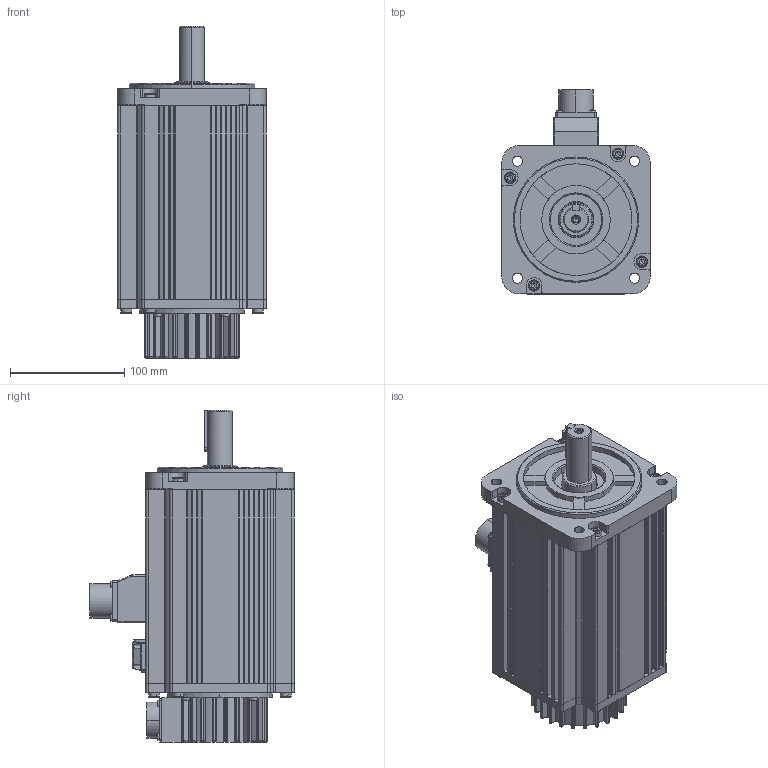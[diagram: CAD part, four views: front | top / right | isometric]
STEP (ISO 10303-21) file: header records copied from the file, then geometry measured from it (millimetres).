
FILE_DESCRIPTION (( 'STEP AP203' ), '1' );
FILE_NAME ('R130-2000+brake.STEP', '2019-08-19T02:04:04', ( '1' ), ( 'MideaGroup IT' ), 'SwSTEP 2.0', 'SolidWorks 2012', '' );
FILE_SCHEMA (( 'CONFIG_CONTROL_DESIGN' ));
Length unit declared in the file: millimetre
Products named in the file (20): R130-2000+brake; 雄薯盄揤裔郪璃; M2.5X5_GB_CROSS_SCREWS_TYPE3 M2.5X8-8-N; 雄薯盄; 雄薯盄躇猾菜; 雄薯盄揤裔; R130瑩; M3X10_GB_CROSS_SCREWS_TYPE1 M3X10-10  H type-N; M3X28_GB_FASTENER_SCREWS_HSHCS M3X25-C; M6X16-16-N_GB_HEXAGON_TYPE21 M6X16-16-N; ヶ傷裔-001; 萇埭盄瑤脣; 晤鎢ん瑤脣; 綴傷裔-002; 130-綴裔; 130-80B-瑤脣; 蛌赽郪璃-001; deep groove ball bearings gb_Rolling bearings 6206 GB 276-94; 130-85粣-001; 儂褲-001
Assembly tree (39 placements, depth 3):
  R130-2000+brake
    儂褲-001
    蛌赽郪璃-001
      130-85粣-001
      deep groove ball bearings gb_Rolling bearings 6206 GB 276-94
    130-80B-瑤脣
    130-綴裔
    綴傷裔-002
    晤鎢ん瑤脣
    萇埭盄瑤脣
    ヶ傷裔-001
    M6X16-16-N_GB_HEXAGON_TYPE21 M6X16-16-N  x8
    M3X28_GB_FASTENER_SCREWS_HSHCS M3X25-C  x4
    M3X10_GB_CROSS_SCREWS_TYPE1 M3X10-10  H type-N  x8
    R130瑩
    雄薯盄揤裔郪璃
      雄薯盄揤裔
      雄薯盄躇猾菜
      雄薯盄
      M2.5X5_GB_CROSS_SCREWS_TYPE3 M2.5X8-8-N  x4
Bounding box: 130 x 179 x 291 mm (x, y, z)
Volume: 1128442.8 mm3; surface area: 395324.3 mm2
Topology: 40 solids, 40 shells, 1803 faces, 4876 edges, 3133 vertices
Faces by surface type: cylinder 803, plane 670, sphere 140, torus 98, cone 52, bspline 40
Entity records: 49799 total; most frequent: CARTESIAN_POINT 11758, DIRECTION 7757, ORIENTED_EDGE 7312, EDGE_CURVE 3656, AXIS2_PLACEMENT_3D 3066, VERTEX_POINT 2371, CIRCLE 1647, LINE 1625
